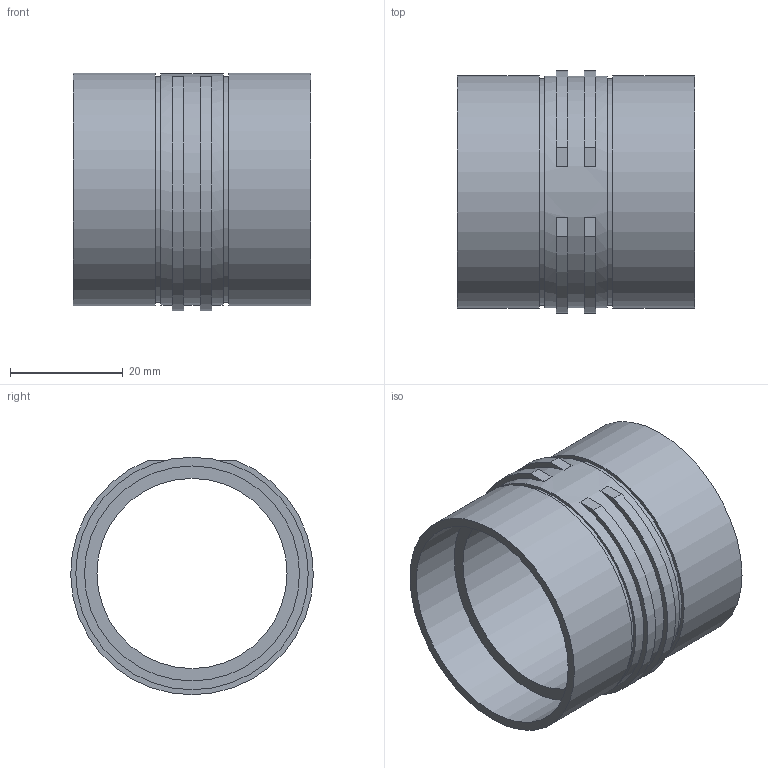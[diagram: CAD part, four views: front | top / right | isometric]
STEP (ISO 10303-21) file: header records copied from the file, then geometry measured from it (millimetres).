
FILE_DESCRIPTION( ( 'Unknown' ), '1' );
FILE_NAME( '//Sv02/01_社内情報/103_技術部/012_図面/図面/電子カタログ-3D/電子カタログ-3D元ファイル(par)/70_3D電子カタログ/01_U/インチ/70-38.1U-BH.stp', 'Unknown', ( 'Unknown' ), ( 'Unknown' ), 'XStep 1.0', 'Unknown', ' ' );
FILE_SCHEMA( ( 'CONFIG_CONTROL_DESIGN' ) );
Length unit declared in the file: millimetre
Products named in the file (1): 1
Bounding box: 42 x 43 x 42.1 mm (x, y, z)
Volume: 14003.4 mm3; surface area: 11781.6 mm2
Topology: 1 solids, 1 shells, 26 faces, 48 edges, 32 vertices
Faces by surface type: plane 16, cylinder 10
Full cylindrical faces by diameter (mm): 33.7 x1, 38.1 x2, 40.05 x2, 41 x1, 41.2 x2
Entity records: 664 total; most frequent: DIRECTION 118, CARTESIAN_POINT 99, ORIENTED_EDGE 80, AXIS2_PLACEMENT_3D 51, EDGE_LOOP 44, EDGE_CURVE 40, FACE_OUTER_BOUND 34, VERTEX_POINT 32
